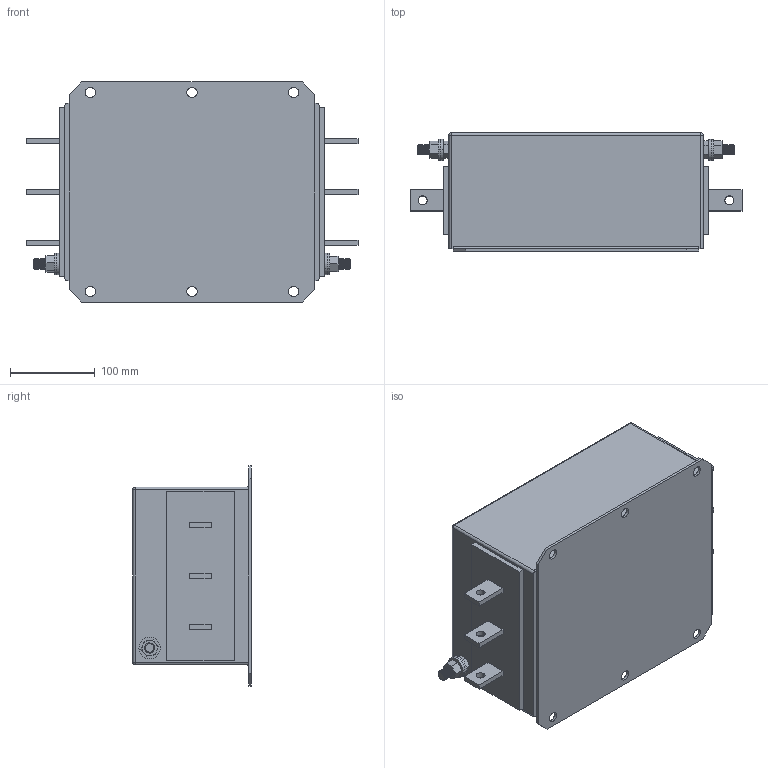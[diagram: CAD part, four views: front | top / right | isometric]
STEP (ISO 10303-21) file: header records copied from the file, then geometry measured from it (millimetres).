
FILE_DESCRIPTION (( 'STEP AP203' ), '1' );
FILE_NAME ('NF-H-(250-600).STEP', '2013-07-25T12:18:50', ( 'Owner' ), ( 'EPA GMBH' ), 'SwSTEP 2.0', 'SolidWorks 2007', '' );
FILE_SCHEMA (( 'CONFIG_CONTROL_DESIGN' ));
Length unit declared in the file: millimetre
Products named in the file (6): Formed Hex Screw_AM_B18.2.3.2M - Formed hex screw, M12 x 1.75 x 30 --30CS; NF-H; M12x30 Earth post; NF-H-(250-600); Hex Nut Style 1_AM_B18.2.4.1M - Hex nut, Style 1,  M12 x 1.75 --D-N; Flat Washer Narrow_AM_B18.22M - Plain washer, 12 mm, narrow
Assembly tree (7 placements, depth 3):
  NF-H-(250-600)
    NF-H
    M12x30 Earth post  x2
      Flat Washer Narrow_AM_B18.22M - Plain washer, 12 mm, narrow
      Formed Hex Screw_AM_B18.2.3.2M - Formed hex screw, M12 x 1.75 x 30 --30CS
      Hex Nut Style 1_AM_B18.2.4.1M - Hex nut, Style 1,  M12 x 1.75 --D-N
Bounding box: 392 x 140 x 260 mm (x, y, z)
Volume: 9061078.1 mm3; surface area: 338808.6 mm2
Topology: 9 solids, 9 shells, 438 faces, 1084 edges, 672 vertices
Faces by surface type: cone 196, cylinder 136, plane 102, sphere 4
Entity records: 8772 total; most frequent: CARTESIAN_POINT 1617, DIRECTION 1446, ORIENTED_EDGE 1308, EDGE_CURVE 654, AXIS2_PLACEMENT_3D 567, VERTEX_POINT 410, VECTOR 312, LINE 312
